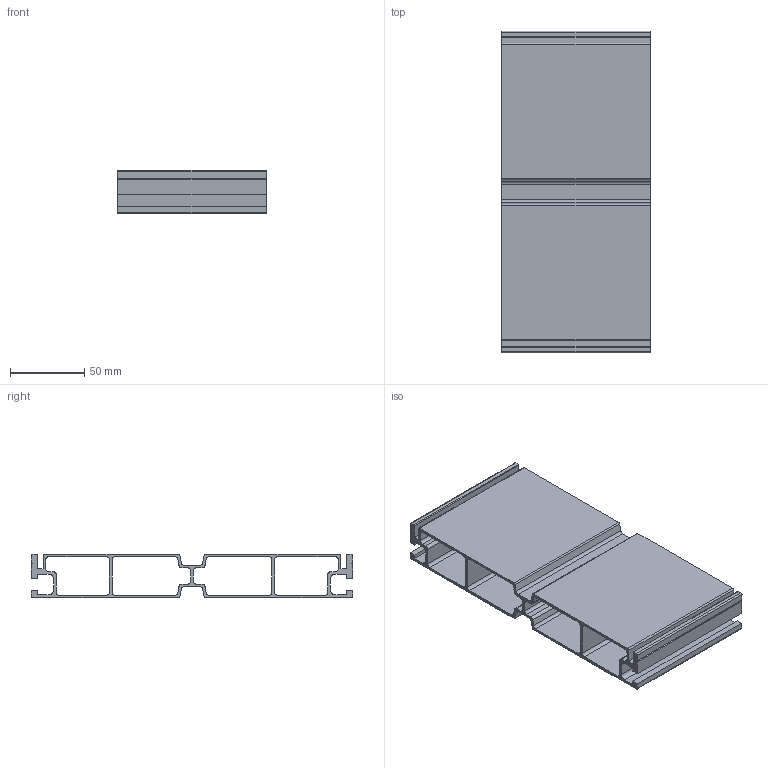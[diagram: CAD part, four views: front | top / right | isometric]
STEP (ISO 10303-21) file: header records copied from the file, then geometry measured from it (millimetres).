
FILE_DESCRIPTION (( 'STEP AP203' ), '1' );
FILE_NAME ('356.001.032.STEP', '2013-01-29T09:35:01', ( 'Alusic' ), ( 'Alusic' ), 'SwSTEP 2.0', 'SolidWorks 2011', '' );
FILE_SCHEMA (( 'CONFIG_CONTROL_DESIGN' ));
Length unit declared in the file: millimetre
Products named in the file (1): 356.001.032
Bounding box: 100 x 217 x 29.5 mm (x, y, z)
Volume: 124413.1 mm3; surface area: 121902.8 mm2
Topology: 1 solids, 1 shells, 120 faces, 354 edges, 236 vertices
Faces by surface type: plane 72, cylinder 48
Entity records: 4107 total; most frequent: CARTESIAN_POINT 711, ORIENTED_EDGE 708, DIRECTION 692, EDGE_CURVE 354, VECTOR 258, LINE 258, VERTEX_POINT 236, AXIS2_PLACEMENT_3D 217
